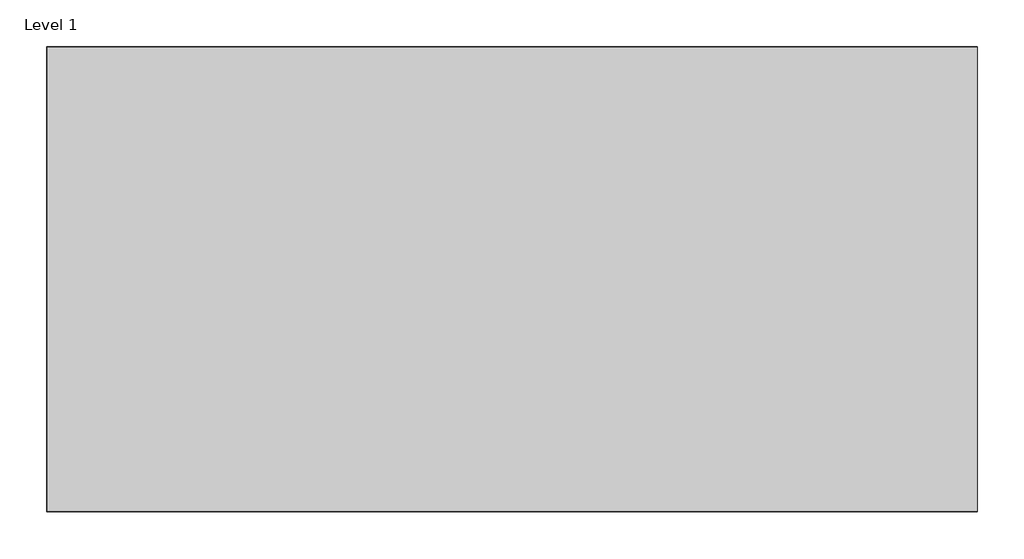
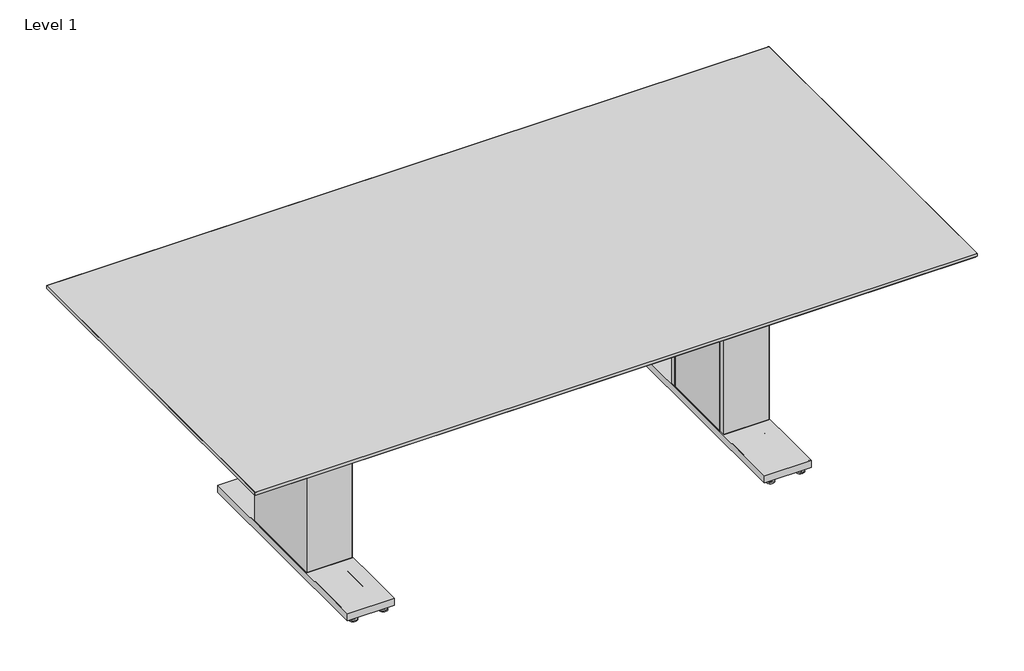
# One storey: 32 proxies.
"""IFC4 building model written with IfcOpenShell, lengths in millimetres."""

from ifc_helpers import new_model, si_unit, origin, place, context, project, spatial, transform, mapped, element, save
from components import generic_models_44946b0e, generic_models_5e53eeca, generic_models_f31e0123, generic_models_67130a1c, generic_models_23d3de63, generic_models_4ba38070, generic_models_9c7fe8c6, generic_models_40ca9fa9, generic_models_695e2661, generic_models_412bd085, generic_models_c6dbf1dd

model = new_model("IFC4")

# Units and contexts
model_context = context("Model", 3, world=origin())
ifc_project = project(units=[si_unit("LENGTHUNIT", "METRE", prefix="MILLI")], contexts=[model_context])

# Site, building, storey
site = spatial("IfcSite", under=ifc_project)
building = spatial("IfcBuilding", under=site)
storey = spatial("IfcBuildingStorey", under=building, Name="Level 1", Elevation=0.0)

# Proxies
placement = place(None, origin())
generic_models_shape = generic_models_44946b0e(model_context)
element("IfcBuildingElementProxy", 1, Name="AERO^TABLE 3_ATS2S-4896-REV2-NOPOWER^CANTLIVER SLD 0106", ObjectType="AERO^TABLE 3_ATS2S-4896-REV2-NOPOWER^CANTLIVER SLD 0106", at=placement, inside=storey, context=model_context, shape_type="MappedRepresentation", body=[
    mapped(generic_models_shape, transform((1233.8247117, 1039.4490264, -56.4920194), x_axis=(-1.0, 0.0, 0.0), y_axis=(0.0, 0.0, 1.0), z_axis=(0.0, 1.0, 0.0))),
])
element("IfcBuildingElementProxy", 2, Name="AERO^TABLE 3_ATS2S-4896-REV2-NOPOWER^CANTLIVER SLD 0106", ObjectType="AERO^TABLE 3_ATS2S-4896-REV2-NOPOWER^CANTLIVER SLD 0106", at=placement, inside=storey, context=model_context, shape_type="MappedRepresentation", body=[
    mapped(generic_models_shape, transform((1617.4917117, 1039.4490264, -56.4920194), x_axis=(-1.0, 0.0, 0.0), y_axis=(0.0, 0.0, 1.0), z_axis=(0.0, 1.0, 0.0))),
])
element("IfcBuildingElementProxy", 3, Name="AERO^TABLE 3_ATS2S-4896-REV2-NOPOWER^CANTLIVER SLD 0106", ObjectType="AERO^TABLE 3_ATS2S-4896-REV2-NOPOWER^CANTLIVER SLD 0106", at=placement, inside=storey, context=model_context, shape_type="MappedRepresentation", body=[
    mapped(generic_models_shape, transform((1982.7437117, 138.023794, -56.4920194), x_axis=(1.0, 0.0, 0.0), y_axis=(0.0, 0.0, 1.0), z_axis=(0.0, -1.0, 0.0))),
])
element("IfcBuildingElementProxy", 4, Name="AERO^TABLE 3_ATS2S-4896-REV2-NOPOWER^CANTLIVER SLD 0106", ObjectType="AERO^TABLE 3_ATS2S-4896-REV2-NOPOWER^CANTLIVER SLD 0106", at=placement, inside=storey, context=model_context, shape_type="MappedRepresentation", body=[
    mapped(generic_models_shape, transform((1209.6947117, 138.023794, -56.4920194), x_axis=(1.0, 0.0, 0.0), y_axis=(0.0, 0.0, 1.0), z_axis=(0.0, -1.0, 0.0))),
])
element("IfcBuildingElementProxy", 5, Name="AERO^TABLE 3_ATS2S-4896-REV2-NOPOWER^CANTLIVER SLD 0106", ObjectType="AERO^TABLE 3_ATS2S-4896-REV2-NOPOWER^CANTLIVER SLD 0106", at=placement, inside=storey, context=model_context, shape_type="MappedRepresentation", body=[
    mapped(generic_models_shape, transform((464.2047117, 1039.4490264, -56.4920194), x_axis=(-1.0, 0.0, 0.0), y_axis=(0.0, 0.0, 1.0), z_axis=(0.0, 1.0, 0.0))),
])
element("IfcBuildingElementProxy", 6, Name="AERO^TABLE 3_ATS2S-4896-REV2-NOPOWER^CANTLIVER SLD 0106", ObjectType="AERO^TABLE 3_ATS2S-4896-REV2-NOPOWER^CANTLIVER SLD 0106", at=placement, inside=storey, context=model_context, shape_type="MappedRepresentation", body=[
    mapped(generic_models_shape, transform((1597.1717117, 138.023794, -56.4920194), x_axis=(1.0, 0.0, 0.0), y_axis=(0.0, 0.0, 1.0), z_axis=(0.0, -1.0, 0.0))),
])
element("IfcBuildingElementProxy", 7, Name="AERO^TABLE 3_ATS2S-4896-REV2-NOPOWER^CANTLIVER SLD 0106", ObjectType="AERO^TABLE 3_ATS2S-4896-REV2-NOPOWER^CANTLIVER SLD 0106", at=placement, inside=storey, context=model_context, shape_type="MappedRepresentation", body=[
    mapped(generic_models_shape, transform((849.7767117, 1039.4490264, -56.4920194), x_axis=(-1.0, 0.0, 0.0), y_axis=(0.0, 0.0, 1.0), z_axis=(0.0, 1.0, 0.0))),
])
element("IfcBuildingElementProxy", 8, Name="AERO^TABLE 3_ATS2S-4896-REV2-NOPOWER^CANTLIVER SLD 0106", ObjectType="AERO^TABLE 3_ATS2S-4896-REV2-NOPOWER^CANTLIVER SLD 0106", at=placement, inside=storey, context=model_context, shape_type="MappedRepresentation", body=[
    mapped(generic_models_shape, transform((829.4567117, 138.023794, -56.4920194), x_axis=(1.0, 0.0, 0.0), y_axis=(0.0, 0.0, 1.0), z_axis=(0.0, -1.0, 0.0))),
])
element("IfcBuildingElementProxy", 9, Name="AERO^TABLE 3_ATS2S-4896-REV2-NOPOWER^CANTLIVER SLD 0106", ObjectType="AERO^TABLE 3_ATS2S-4896-REV2-NOPOWER^CANTLIVER SLD 0106", at=placement, inside=storey, context=model_context, shape_type="MappedRepresentation", body=[
    mapped(generic_models_shape, transform((441.9797117, 138.023794, -56.4920194), x_axis=(1.0, 0.0, 0.0), y_axis=(0.0, 0.0, 1.0), z_axis=(0.0, -1.0, 0.0))),
])
element("IfcBuildingElementProxy", 10, Name="AERO^TABLE 3_ATS2S-4896-REV2-NOPOWER^CANTLIVER SLD 0106", ObjectType="AERO^TABLE 3_ATS2S-4896-REV2-NOPOWER^CANTLIVER SLD 0106", at=placement, inside=storey, context=model_context, shape_type="MappedRepresentation", body=[
    mapped(generic_models_shape, transform((2003.0637117, 1039.4490264, -56.4920194), x_axis=(-1.0, 0.0, 0.0), y_axis=(0.0, 0.0, 1.0), z_axis=(0.0, 1.0, 0.0))),
])
generic_models_2_shape = generic_models_5e53eeca(model_context)
element("IfcBuildingElementProxy", 11, Name="CANTILEVER - (H-QMCB-1)", ObjectType="CANTILEVER - (H-QMCB-1)", at=placement, inside=storey, context=model_context, shape_type="MappedRepresentation", body=[
    mapped(generic_models_2_shape, transform((826.9167117, 893.0284102, -2.5170194), x_axis=(1.0, 0.0, 0.0), y_axis=(0.0, 0.0, 1.0), z_axis=(0.0, -1.0, 0.0))),
])
element("IfcBuildingElementProxy", 12, Name="CANTILEVER - (H-QMCB-1)", ObjectType="CANTILEVER - (H-QMCB-1)", at=placement, inside=storey, context=model_context, shape_type="MappedRepresentation", body=[
    mapped(generic_models_2_shape, transform((1594.6317117, 893.0284102, -2.5170194), x_axis=(1.0, 0.0, 0.0), y_axis=(0.0, 0.0, 1.0), z_axis=(0.0, -1.0, 0.0))),
])
element("IfcBuildingElementProxy", 13, Name="CANTILEVER - (H-QMCB-1)", ObjectType="CANTILEVER - (H-QMCB-1)", at=placement, inside=storey, context=model_context, shape_type="MappedRepresentation", body=[
    mapped(generic_models_2_shape, transform((1234.4597117, 283.4284102, -2.5170194), x_axis=(-1.0, 0.0, 0.0), y_axis=(0.0, 0.0, 1.0), z_axis=(0.0, 1.0, 0.0))),
])
generic_models_3_shape = generic_models_f31e0123(model_context)
element("IfcBuildingElementProxy", 14, Name="AERO^TABLE 3_ATS2S-4896-REV2-NOPOWER^ SHRD SIDE05", ObjectType="AERO^TABLE 3_ATS2S-4896-REV2-NOPOWER^ SHRD SIDE05", at=placement, inside=storey, context=model_context, shape_type="MappedRepresentation", body=[
    mapped(generic_models_3_shape, transform((1833.0742117, 1195.9551602, 38.9706653), x_axis=(-0.9999999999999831, 0.0, 0.0), y_axis=(0.0, -0.2588190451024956, 0.9659258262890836), z_axis=(0.0, 0.9659258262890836, 0.2588190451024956))),
])
element("IfcBuildingElementProxy", 15, Name="AERO^TABLE 3_ATS2S-4896-REV2-NOPOWER^ SHRD SIDE05", ObjectType="AERO^TABLE 3_ATS2S-4896-REV2-NOPOWER^ SHRD SIDE05", at=placement, inside=storey, context=model_context, shape_type="MappedRepresentation", body=[
    mapped(generic_models_3_shape, transform((613.8742117, -18.4823398, 38.9706653), x_axis=(0.9999999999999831, 0.0, 0.0), y_axis=(0.0, 0.2588190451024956, 0.9659258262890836), z_axis=(0.0, -0.9659258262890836, 0.2588190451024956))),
])
generic_models_4_shape = generic_models_67130a1c(model_context)
element("IfcBuildingElementProxy", 16, Name="AERO^TABLE 3_ATS2S-4896-REV2-NOPOWER^CANTLIVER SLD 0207", ObjectType="AERO^TABLE 3_ATS2S-4896-REV2-NOPOWER^CANTLIVER SLD 0207", at=placement, inside=storey, context=model_context, shape_type="MappedRepresentation", body=[
    mapped(generic_models_4_shape, transform((163.1615955, 692.0509102, -56.4920194), x_axis=(0.0, -1.0, 0.0), y_axis=(0.0, 0.0, 1.0), z_axis=(-1.0, 0.0, 0.0))),
])
element("IfcBuildingElementProxy", 17, Name="AERO^TABLE 3_ATS2S-4896-REV2-NOPOWER^CANTLIVER SLD 0207", ObjectType="AERO^TABLE 3_ATS2S-4896-REV2-NOPOWER^CANTLIVER SLD 0207", at=placement, inside=storey, context=model_context, shape_type="MappedRepresentation", body=[
    mapped(generic_models_4_shape, transform((2283.7868279, 484.4059102, -56.4920194), x_axis=(0.0, 1.0, 0.0), y_axis=(0.0, 0.0, 1.0), z_axis=(1.0, 0.0, 0.0))),
])
element("IfcBuildingElementProxy", 18, Name="AERO^TABLE 3_ATS2S-4896-REV2-NOPOWER^CANTLIVER SLD 0207", ObjectType="AERO^TABLE 3_ATS2S-4896-REV2-NOPOWER^CANTLIVER SLD 0207", at=placement, inside=storey, context=model_context, shape_type="MappedRepresentation", body=[
    mapped(generic_models_4_shape, transform((2283.7868279, 669.8259102, -56.4920194), x_axis=(0.0, 1.0, 0.0), y_axis=(0.0, 0.0, 1.0), z_axis=(1.0, 0.0, 0.0))),
])
element("IfcBuildingElementProxy", 19, Name="AERO^TABLE 3_ATS2S-4896-REV2-NOPOWER^CANTLIVER SLD 0207", ObjectType="AERO^TABLE 3_ATS2S-4896-REV2-NOPOWER^CANTLIVER SLD 0207", at=placement, inside=storey, context=model_context, shape_type="MappedRepresentation", body=[
    mapped(generic_models_4_shape, transform((163.1615955, 504.7259102, -56.4920194), x_axis=(0.0, -1.0, 0.0), y_axis=(0.0, 0.0, 1.0), z_axis=(-1.0, 0.0, 0.0))),
])
generic_models_5_shape = generic_models_23d3de63(model_context)
element("IfcBuildingElementProxy", 20, Name="CANTILEVER - (H-QECB)", ObjectType="CANTILEVER - (H-QECB)", at=placement, inside=storey, context=model_context, shape_type="MappedRepresentation", body=[
    mapped(generic_models_5_shape, transform((1980.2037117, 893.0284102, -2.5170194), x_axis=(1.0, 0.0, 0.0), y_axis=(0.0, 0.0, 1.0), z_axis=(0.0, -1.0, 0.0))),
])
element("IfcBuildingElementProxy", 21, Name="CANTILEVER - (H-QECB)", ObjectType="CANTILEVER - (H-QECB)", at=placement, inside=storey, context=model_context, shape_type="MappedRepresentation", body=[
    mapped(generic_models_5_shape, transform((466.7447117, 283.4284102, -2.5170194), x_axis=(-1.0, 0.0, 0.0), y_axis=(0.0, 0.0, 1.0), z_axis=(0.0, 1.0, 0.0))),
])
generic_models_6_shape = generic_models_4ba38070(model_context)
element("IfcBuildingElementProxy", 22, Name="H-QTRGE-60", ObjectType="H-QTRGE-60", at=placement, inside=storey, context=model_context, shape_type="MappedRepresentation", body=[
    mapped(generic_models_6_shape, transform((1983.3787117, 734.7864102, -59.6670194), x_axis=(-1.0, 0.0, 0.0), y_axis=(0.0, 0.0, 1.0), z_axis=(0.0, 1.0, 0.0))),
])
element("IfcBuildingElementProxy", 23, Name="H-QTRGE-60", ObjectType="H-QTRGE-60", at=placement, inside=storey, context=model_context, shape_type="MappedRepresentation", body=[
    mapped(generic_models_6_shape, transform((459.3787117, 442.6864102, -59.6670194), x_axis=(1.0, 0.0, 0.0), y_axis=(0.0, 0.0, 1.0), z_axis=(0.0, -1.0, 0.0))),
])
generic_models_7_shape = generic_models_9c7fe8c6(model_context)
element("IfcBuildingElementProxy", 24, Name="AERO^TABLE 3_ATS2S-4896-REV2-NOPOWER^TROUGH CLEAT BLK10", ObjectType="AERO^TABLE 3_ATS2S-4896-REV2-NOPOWER^TROUGH CLEAT BLK10", at=placement, inside=storey, context=model_context, shape_type="MappedRepresentation", body=[
    mapped(generic_models_7_shape, transform((1983.3787117, 741.1364102, -2.5170194), x_axis=(0.0, 1.0, 0.0), y_axis=(0.0, 0.0, 1.0), z_axis=(1.0, 0.0, 0.0))),
])
element("IfcBuildingElementProxy", 25, Name="AERO^TABLE 3_ATS2S-4896-REV2-NOPOWER^TROUGH CLEAT BLK10", ObjectType="AERO^TABLE 3_ATS2S-4896-REV2-NOPOWER^TROUGH CLEAT BLK10", at=placement, inside=storey, context=model_context, shape_type="MappedRepresentation", body=[
    mapped(generic_models_7_shape, transform((586.8867117, 436.3364102, -2.5170194), x_axis=(0.0, -1.0, 0.0), y_axis=(0.0, 0.0, 1.0), z_axis=(-1.0, 0.0, 0.0))),
])
generic_models_8_shape = generic_models_40ca9fa9(model_context)
element("IfcBuildingElementProxy", 26, Name="AERO^TABLE 3_30 table base-REV208", ObjectType="AERO^TABLE 3_30 table base-REV208", at=placement, inside=storey, context=model_context, shape_type="MappedRepresentation", body=[
    mapped(generic_models_8_shape, transform((1848.4412117, 196.6112102, -691.4920194), x_axis=(1.0, 0.0, 0.0), y_axis=(0.0, 0.0, 1.0), z_axis=(0.0, -1.0, 0.0))),
])
element("IfcBuildingElementProxy", 27, Name="AERO^TABLE 3_30 table base-REV208", ObjectType="AERO^TABLE 3_30 table base-REV208", at=placement, inside=storey, context=model_context, shape_type="MappedRepresentation", body=[
    mapped(generic_models_8_shape, transform((440.8367117, 196.6112102, -691.4920194), x_axis=(1.0, 0.0, 0.0), y_axis=(0.0, 0.0, 1.0), z_axis=(0.0, -1.0, 0.0))),
])
generic_models_9_shape = generic_models_695e2661(model_context)
element("IfcBuildingElementProxy", 28, Name="AERO^TABLE 3_ATS2S-4896-REV2-NOPOWER^ SHRD END04", ObjectType="AERO^TABLE 3_ATS2S-4896-REV2-NOPOWER^ SHRD END04", at=placement, inside=storey, context=model_context, shape_type="MappedRepresentation", body=[
    mapped(generic_models_9_shape, transform((2440.2929617, -17.6885898, 38.9706653), x_axis=(0.0, 0.9999999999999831, 0.0), y_axis=(-0.2588190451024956, 0.0, 0.9659258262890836), z_axis=(0.9659258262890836, 0.0, 0.2588190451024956))),
])
element("IfcBuildingElementProxy", 29, Name="AERO^TABLE 3_ATS2S-4896-REV2-NOPOWER^ SHRD END04", ObjectType="AERO^TABLE 3_ATS2S-4896-REV2-NOPOWER^ SHRD END04", at=placement, inside=storey, context=model_context, shape_type="MappedRepresentation", body=[
    mapped(generic_models_9_shape, transform((6.6554617, 1195.1614102, 38.9706653), x_axis=(0.0, -0.9999999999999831, 0.0), y_axis=(0.2588190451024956, 0.0, 0.9659258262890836), z_axis=(-0.9659258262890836, 0.0, 0.2588190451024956))),
])
generic_models_10_shape = generic_models_412bd085(model_context)
element("IfcBuildingElementProxy", 30, Name="AERO^TABLE 3__AMC-611-V-109", ObjectType="AERO^TABLE 3__AMC-611-V-109", at=placement, inside=storey, context=model_context, shape_type="MappedRepresentation", body=[
    mapped(generic_models_10_shape, transform((1984.9662117, 720.4989102, -660.1787818), x_axis=(0.0, -1.0, 0.0), y_axis=(0.0, 0.0, 1.0), z_axis=(-1.0, 0.0, 0.0))),
])
element("IfcBuildingElementProxy", 31, Name="AERO^TABLE 3__AMC-611-V-109", ObjectType="AERO^TABLE 3__AMC-611-V-109", at=placement, inside=storey, context=model_context, shape_type="MappedRepresentation", body=[
    mapped(generic_models_10_shape, transform((461.4742117, 456.9739102, -660.1787818), x_axis=(0.0, 1.0, 0.0), y_axis=(0.0, 0.0, 1.0), z_axis=(1.0, 0.0, 0.0))),
])
generic_models_11_shape = generic_models_c6dbf1dd(model_context)
element("IfcBuildingElementProxy", 32, Name="AERO^TABLE 3_ATS2S-4896-REV2-NOPOWER^WKSF03", ObjectType="AERO^TABLE 3_ATS2S-4896-REV2-NOPOWER^WKSF03", at=placement, inside=storey, context=model_context, shape_type="MappedRepresentation", body=[
    mapped(generic_models_11_shape, transform((4.2742117, -20.8635898, 19.7079806), x_axis=(1.0, 0.0, 0.0), y_axis=(0.0, 0.0, 1.0), z_axis=(0.0, -1.0, 0.0))),
])

save(model, "model.ifc")
